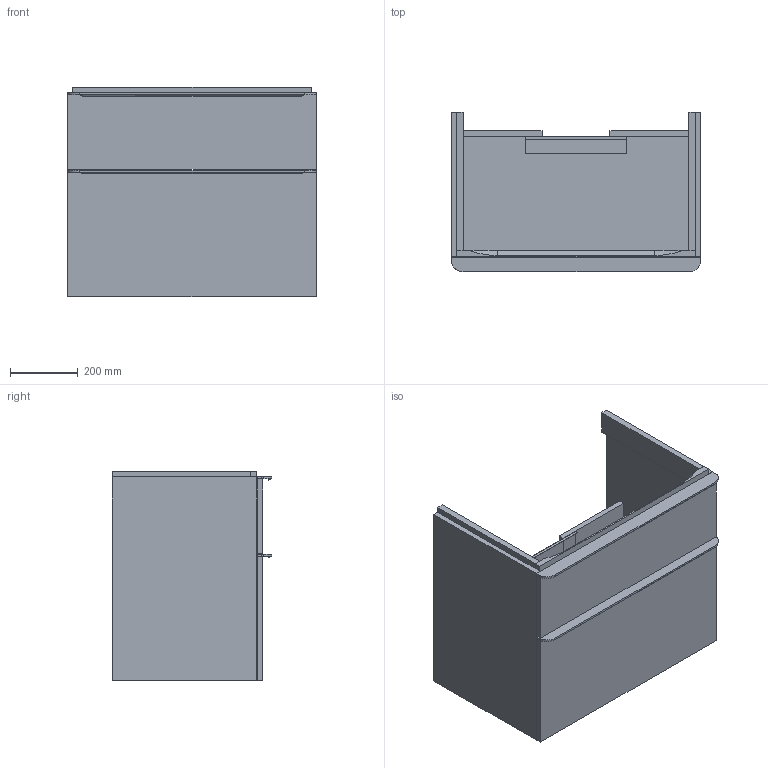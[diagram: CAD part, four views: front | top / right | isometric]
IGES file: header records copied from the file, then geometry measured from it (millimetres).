
Global section: file name: 500353; native system: Autodesk Inventor 2018; preprocessor: unknown; author: JANAN; date: 20200430.092135; units: millimetre
Bounding box: 734 x 469.9 x 617 mm (x, y, z)
Volume: 23951575.7 mm3; surface area: 3592943.9 mm2
Topology: 13 solids, 13 shells, 159 faces, 381 edges, 254 vertices
Faces by surface type: bspline 159
